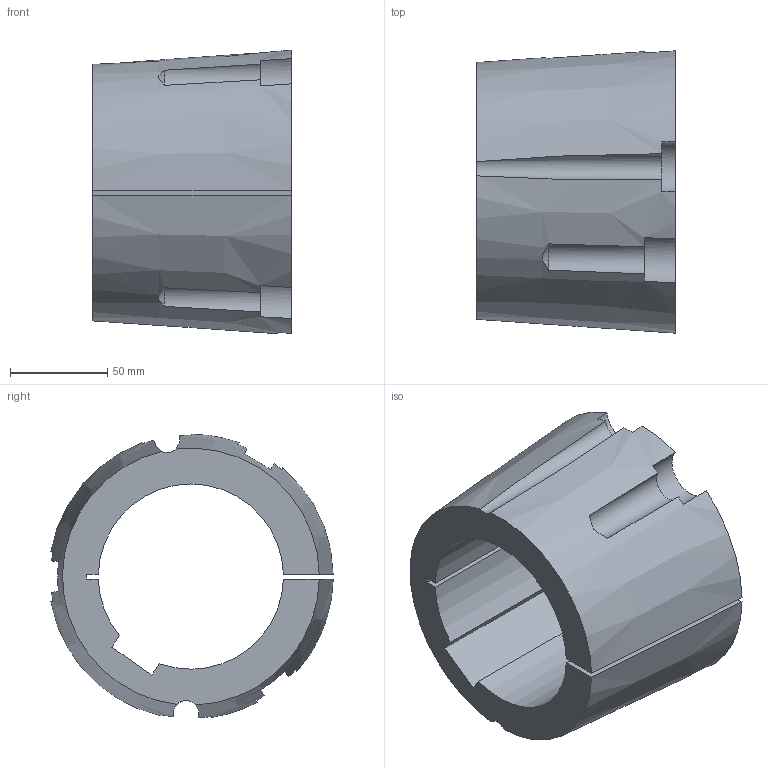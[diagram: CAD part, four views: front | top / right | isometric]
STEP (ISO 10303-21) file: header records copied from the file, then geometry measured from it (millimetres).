
FILE_DESCRIPTION( ( 'STEP AP203' ), '1' );
FILE_NAME( 'D:/export/antriebselemente/spannbuchsen_und_spannsaetze/taper-spannbuchsen_1008_bis_5050/taper-spannbuchsen_62251495Isometric_247.stp', '2018-12-11T11:11:34', ( '' ), ( '' ), ' ', 'PARTsolutions', ' ' );
FILE_SCHEMA( ( 'CONFIG_CONTROL_DESIGN' ) );
Length unit declared in the file: millimetre
Products named in the file (1): _taper-spannbuchsen_62251495
Bounding box: 102 x 144.84 x 145.4 mm (x, y, z)
Volume: 757999.6 mm3; surface area: 99950.1 mm2
Topology: 1 solids, 1 shells, 34 faces, 96 edges, 64 vertices
Faces by surface type: plane 15, cylinder 13, cone 6
Entity records: 1310 total; most frequent: CARTESIAN_POINT 386, ORIENTED_EDGE 192, DIRECTION 186, EDGE_CURVE 96, AXIS2_PLACEMENT_3D 80, VERTEX_POINT 64, CIRCLE 45, ADVANCED_FACE 34
